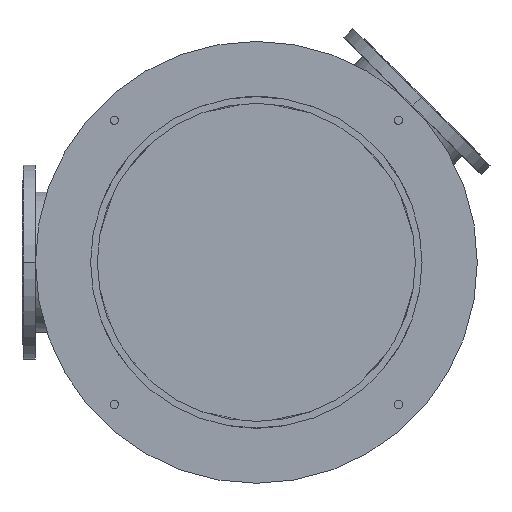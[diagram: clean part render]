
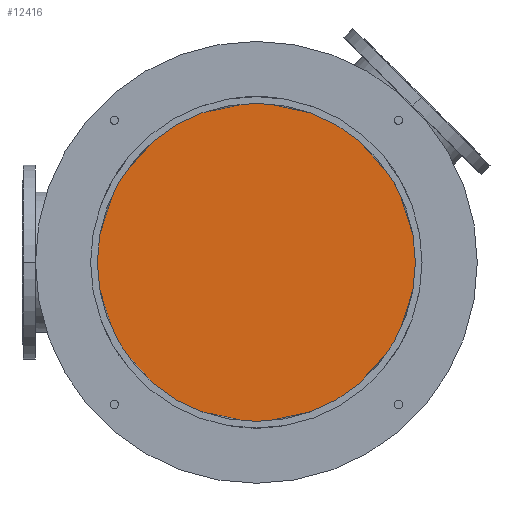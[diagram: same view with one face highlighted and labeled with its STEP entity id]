
A CAD part, front view. The second image highlights one B-rep face of the part: STEP entity #12416.
In plain terms, the highlighted planar face has unit normal (0, -1, 0).
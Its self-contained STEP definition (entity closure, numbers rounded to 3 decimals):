
#3024=CARTESIAN_POINT('',(0.,1466.,0.));
#3025=DIRECTION('',(0.,-1.,0.));
#3026=DIRECTION('',(0.,0.,-1.));
#3027=AXIS2_PLACEMENT_3D('',#3024,#3025,#3026);
#3066=CARTESIAN_POINT('',(0.,1466.,0.));
#3067=DIRECTION('',(0.,-1.,0.));
#3068=DIRECTION('',(0.,0.,1.));
#3069=AXIS2_PLACEMENT_3D('',#3066,#3067,#3068);
#7575=CARTESIAN_POINT('',(0.,1466.,560.));
#7576=CARTESIAN_POINT('',(0.,1466.,-560.));
#7577=VERTEX_POINT('',#7575);
#7578=VERTEX_POINT('',#7576);
#12407=CARTESIAN_POINT('',(0.,1466.,0.));
#12408=DIRECTION('',(0.,1.,0.));
#12409=DIRECTION('',(0.,0.,-1.));
#12410=AXIS2_PLACEMENT_3D('',#12407,#12408,#12409);
#12411=PLANE('',#12410);
#12412=ORIENTED_EDGE('',*,*,#12390,.F.);
#12413=ORIENTED_EDGE('',*,*,#12318,.F.);
#12414=EDGE_LOOP('',(#12412,#12413));
#12415=FACE_OUTER_BOUND('',#12414,.F.);
#12416=ADVANCED_FACE('',(#12415),#12411,.F.);
#3028=CIRCLE('',#3027,560.);
#3070=CIRCLE('',#3069,560.);
#12318=EDGE_CURVE('',#7578,#7577,#3028,.T.);
#12390=EDGE_CURVE('',#7577,#7578,#3070,.T.);
